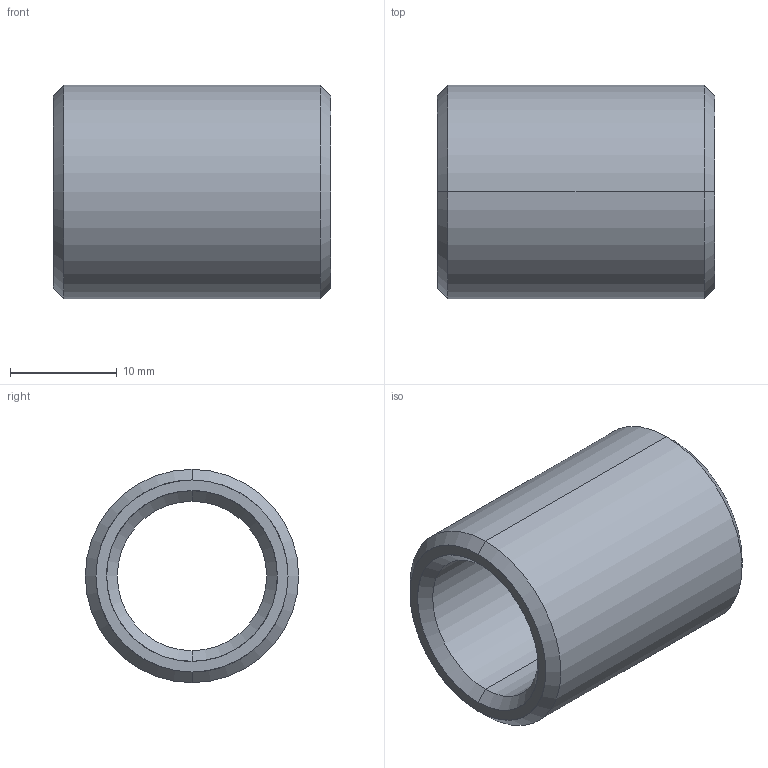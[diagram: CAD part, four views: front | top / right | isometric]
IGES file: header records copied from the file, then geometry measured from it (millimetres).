
Start section: START RECORD GO HERE.
Global section: file name: 352-14X26.igs; native system: DASSAULT SYSTEMES CATIA V5 R20 - www.3ds.com; preprocessor: CATIA Version 5 Release 20 ; author: Utente; organization: NB04-ASUS; date: 20210410.112035; units: millimetre
Bounding box: 26 x 20 x 20 mm (x, y, z)
Surface area: 2978.5 mm2 (no closed solid volume)
Topology: 0 solids, 0 shells, 14 faces, 88 edges, 88 vertices
Faces by surface type: revolution 12, plane 2
